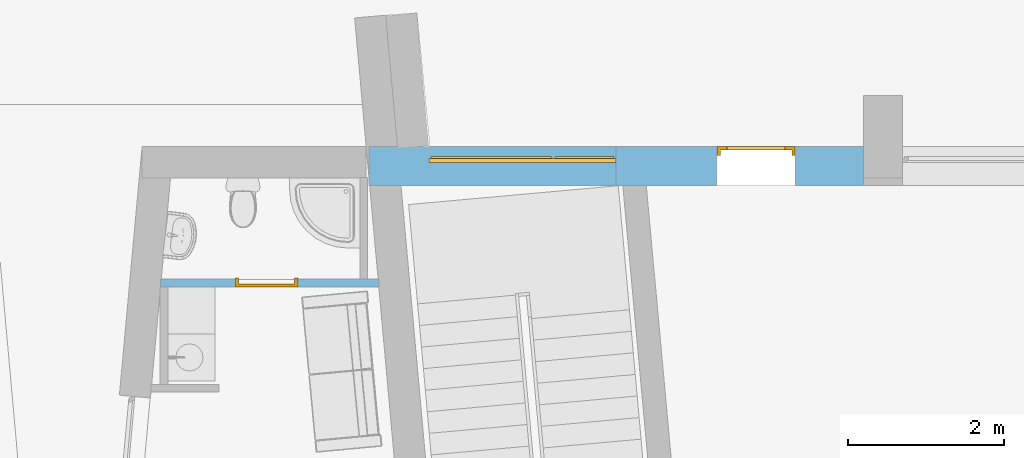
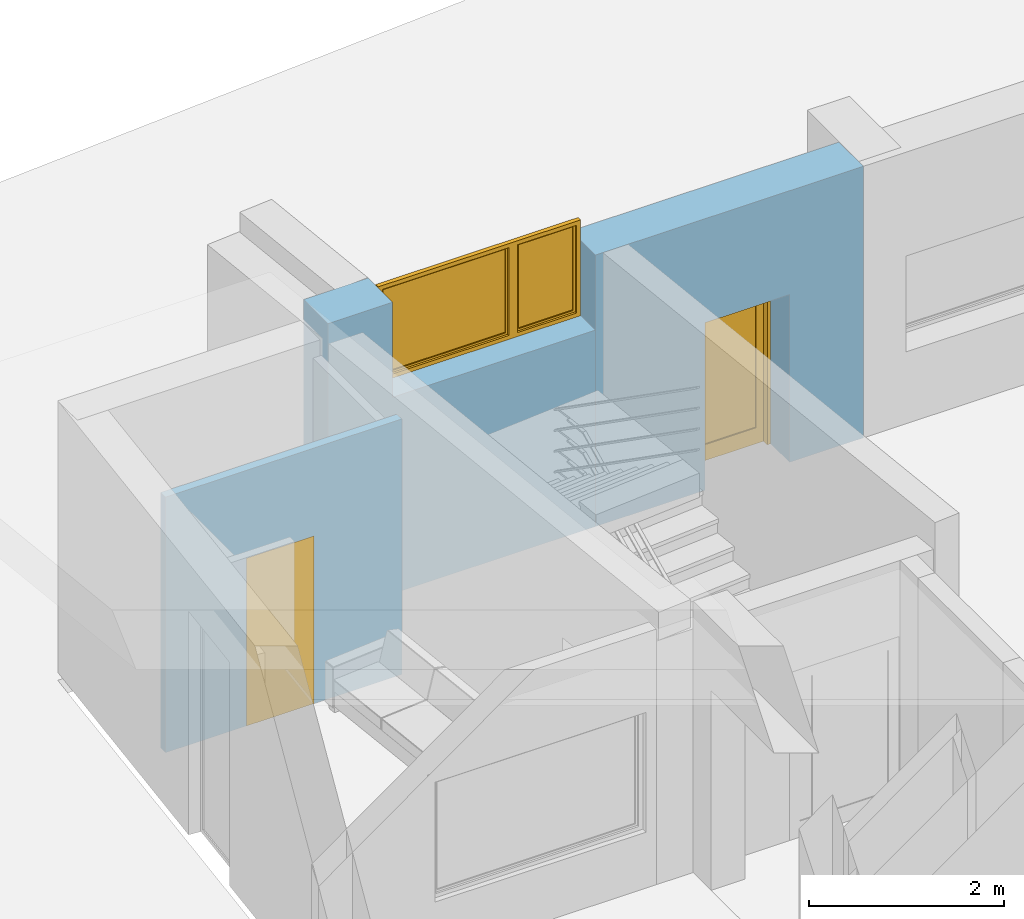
# One storey, part 16 of 36: 2 doors, 1 window, 3 openings, plus 3 elements that do not belong to this part.
"""IFC2X3 building model written with IfcOpenShell, lengths in millimetres."""

from ifc_helpers import new_model, entity, si_unit, converted_unit, money_unit, direction, frame, origin_with_axes, place, context, subcontext, project, spatial, polyline, outline, extrude, open_shell, faceted_brep, surface_model, material, material_list, layer, layer_set, layer_usage, type_object, element, fill, save


model = new_model("IFC2X3")

# Units and contexts
model_context = context("Model", 3, precision=1e-05, world=origin_with_axes(), true_north=direction((0.0, 1.0)))
body_context = subcontext(model_context, "Body", "Model", "MODEL_VIEW")
ifc_project = project(units=[si_unit("LENGTHUNIT", "METRE", prefix="MILLI"), si_unit("AREAUNIT", "SQUARE_METRE"), si_unit("VOLUMEUNIT", "CUBIC_METRE"), converted_unit("PLANEANGLEUNIT", "DEGREE", entity("IfcPlaneAngleMeasure", 0.0174532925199), si_unit("PLANEANGLEUNIT", "RADIAN"), dimensions=[0, 0, 0, 0, 0, 0, 0]), si_unit("SOLIDANGLEUNIT", "STERADIAN"), money_unit("USD"), converted_unit("TIMEUNIT", "Year", entity("IfcTimeMeasure", 31556926.0), si_unit("TIMEUNIT", "SECOND"), dimensions=[0, 0, 0, 0, 0, 0, 0]), si_unit("MASSUNIT", "GRAM"), si_unit("THERMODYNAMICTEMPERATUREUNIT", "DEGREE_CELSIUS"), si_unit("LUMINOUSINTENSITYUNIT", "LUMEN")], contexts=[model_context])

# Site, building, storey
site_placement = place(None, origin_with_axes())
site = spatial("IfcSite", under=ifc_project, at=site_placement, Name="Site", CompositionType="ELEMENT")
building_placement = place(site_placement, origin_with_axes())
building = spatial("IfcBuilding", under=site, at=building_placement, Name="Building", CompositionType="ELEMENT")
storey_placement = place(building_placement, frame((0.0, 0.0, -3400.0), z_axis=(0.0, 0.0, 1.0), x_axis=(1.0, 0.0, 0.0)))
storey = spatial("IfcBuildingStorey", under=building, at=storey_placement, Name="1KORRUS", CompositionType="ELEMENT", Elevation=-3400.0)

# Wall, opening, door
ifc_material_1 = material(Name="Olemasolevad seinad tellis, uus viimistlus")
ifc_layer_1 = layer(ifc_material_1, 500.0, ventilated="UNKNOWN")
ifc_layer_set_1 = layer_set([ifc_layer_1], Name="Olemasolevad seinad tellis, uus viimistlus 500")
ifc_layer_usage_1 = layer_usage(ifc_layer_set_1, "AXIS2", "POSITIVE", -100.0)
wall_type_1 = type_object("IfcWallType", Name="Olemasolevad seinad tellis, uus viimistlus 500", PredefinedType="NOTDEFINED")
wall_1_placement = place(storey_placement, frame((-51569.3388124, -5039.6041088, 0.0), z_axis=(0.0, 0.0, 1.0), x_axis=(1.0, 0.0, 0.0)))
wall_1 = element("IfcWallStandardCase", 1, at=wall_1_placement, inside=storey, type_object=wall_type_1, material=ifc_layer_usage_1, Name="VS1", ObjectType="VS1", context=body_context, shape_type="SweptSolid", body=[
    extrude(outline(polyline([(0.0, -100.0), (3175.51140757, -100.0), (3175.51140757, 400.0), (0.0, 400.0), (0.0, -100.0)])), origin_with_axes(), (0.0, 0.0, 1.0), 3400.0),
])
opening_1_placement = place(wall_1_placement, frame((1799.04210911, 0.0, 0.0), z_axis=(0.0, 0.0, 1.0), x_axis=(1.0, 0.0, 0.0)))
opening_1 = element("IfcOpeningElement", 2, at=opening_1_placement, cuts=wall_1, Name="VU1", context=body_context, shape_type="SweptSolid", body=[
    extrude(outline(polyline([(-500.0, -2100.0), (500.0, -2100.0), (500.0, 0.0), (-500.0, 0.0), (-500.0, -2100.0)])), frame((0.0, -500.0, 0.0), z_axis=(0.0, 1.0, 0.0), x_axis=(1.0, 0.0, 0.0)), (0.0, 0.0, 1.0), 1500.0),
])
ifc_material_2 = material(Name="Background")
ifc_material_list = material_list([ifc_material_2])
door_style_1 = type_object("IfcDoorStyle", Name="Door 19", ConstructionType="NOTDEFINED", OperationType="SINGLE_SWING_RIGHT", ParameterTakesPrecedence=False, Sizeable=False)
door_1_placement = place(opening_1_placement, frame((-500.0, 0.0, 0.0), z_axis=(0.0, 0.0, 1.0), x_axis=(1.0, 0.0, 0.0)))
door_1 = element("IfcDoor", 3, at=door_1_placement, inside=storey, type_object=door_style_1, material=ifc_material_list, Name="VU1", ObjectType="VÄLISUKS", OverallHeight=2100.0, OverallWidth=1000.0, context=body_context, shape_type="SurfaceModel", body=[
    faceted_brep([(40.0, 360.0, 0.0), (40.0, 360.0, 2060.0), (40.0, 285.0, 2060.0), (40.0, 285.0, 0.0), (28.0, 360.0, 2060.0), (28.0, 360.0, 0.0), (28.0, 400.0, 2060.0), (0.0, 400.0, 2060.0), (0.0, 285.0, 2060.0), (0.0, 285.0, 0.0), (0.0, 400.0, 0.0), (28.0, 400.0, 0.0)], [[[0, 1, 2, 3]], [[4, 1, 0, 5]], [[4, 6, 7, 8, 2, 1]], [[2, 8, 9, 3]], [[5, 0, 3, 9, 10, 11]], [[6, 4, 5, 11]], [[6, 11, 10, 7]], [[9, 8, 7, 10]]]),
    faceted_brep([(972.0, 360.0, 2060.0), (960.0, 360.0, 2060.0), (960.0, 285.0, 2060.0), (1000.0, 285.0, 2060.0), (1000.0, 400.0, 2060.0), (972.0, 400.0, 2060.0), (972.0, 360.0, 0.0), (960.0, 360.0, 0.0), (960.0, 285.0, 0.0), (1000.0, 285.0, 0.0), (1000.0, 400.0, 0.0), (972.0, 400.0, 0.0)], [[[0, 1, 2, 3, 4, 5]], [[1, 0, 6, 7]], [[1, 7, 8, 2]], [[2, 8, 9, 3]], [[3, 9, 10, 4]], [[11, 5, 4, 10]], [[0, 5, 11, 6]], [[6, 11, 10, 9, 8, 7]]]),
    faceted_brep([(28.0, 400.0, 2072.0), (28.0, 400.0, 2060.0), (0.0, 400.0, 2060.0), (0.0, 400.0, 2100.0), (1000.0, 400.0, 2100.0), (1000.0, 400.0, 2060.0), (972.0, 400.0, 2060.0), (972.0, 400.0, 2072.0), (28.0, 360.0, 2072.0), (28.0, 360.0, 2060.0), (40.0, 360.0, 2060.0), (40.0, 285.0, 2060.0), (0.0, 285.0, 2060.0), (0.0, 285.0, 2100.0), (1000.0, 285.0, 2100.0), (1000.0, 285.0, 2060.0), (972.0, 360.0, 2060.0), (960.0, 285.0, 2060.0), (960.0, 360.0, 2060.0), (972.0, 360.0, 2072.0)], [[[0, 1, 2, 3, 4, 5, 6, 7]], [[1, 0, 8, 9]], [[9, 10, 11, 12, 2, 1]], [[12, 13, 3, 2]], [[13, 14, 4, 3]], [[14, 15, 5, 4]], [[16, 6, 5, 15, 17, 18]], [[7, 6, 16, 19]], [[0, 7, 19, 8]], [[16, 18, 10, 9, 8, 19]], [[10, 18, 17, 11]], [[15, 14, 13, 12, 11, 17]]]),
    faceted_brep([(972.0, 400.0, 200.0), (972.0, 360.0, 200.0), (872.0, 360.0, 200.0), (872.0, 400.0, 200.0), (972.0, 400.0, 1972.0), (972.0, 360.0, 1972.0), (872.0, 360.0, 1972.0), (872.0, 400.0, 1972.0)], [[[0, 1, 2, 3]], [[4, 5, 1, 0]], [[1, 5, 6, 2]], [[3, 2, 6, 7]], [[0, 3, 7, 4]], [[7, 6, 5, 4]]]),
    faceted_brep([(28.0, 400.0, 200.0), (28.0, 360.0, 200.0), (28.0, 360.0, 1972.0), (28.0, 400.0, 1972.0), (128.0, 400.0, 200.0), (128.0, 360.0, 200.0), (128.0, 360.0, 1972.0), (128.0, 400.0, 1972.0)], [[[0, 1, 2, 3]], [[4, 5, 1, 0]], [[1, 5, 6, 2]], [[3, 2, 6, 7]], [[0, 3, 7, 4]], [[7, 6, 5, 4]]]),
    faceted_brep([(972.0, 400.0, 0.0), (972.0, 360.0, 0.0), (28.0, 360.0, 0.0), (28.0, 400.0, 0.0), (972.0, 400.0, 200.0), (972.0, 360.0, 200.0), (872.0, 360.0, 200.0), (128.0, 360.0, 200.0), (28.0, 360.0, 200.0), (28.0, 400.0, 200.0), (128.0, 400.0, 200.0), (872.0, 400.0, 200.0)], [[[0, 1, 2, 3]], [[4, 5, 1, 0]], [[1, 5, 6, 7, 8, 2]], [[3, 2, 8, 9]], [[0, 3, 9, 10, 11, 4]], [[11, 6, 5, 4]], [[10, 7, 6, 11]], [[9, 8, 7, 10]]]),
    faceted_brep([(972.0, 400.0, 2072.0), (972.0, 360.0, 2072.0), (972.0, 360.0, 1972.0), (972.0, 400.0, 1972.0), (28.0, 400.0, 2072.0), (28.0, 360.0, 2072.0), (28.0, 360.0, 1972.0), (128.0, 360.0, 1972.0), (872.0, 360.0, 1972.0), (872.0, 400.0, 1972.0), (128.0, 400.0, 1972.0), (28.0, 400.0, 1972.0)], [[[0, 1, 2, 3]], [[4, 5, 1, 0]], [[1, 5, 6, 7, 8, 2]], [[3, 2, 8, 9]], [[0, 3, 9, 10, 11, 4]], [[11, 6, 5, 4]], [[10, 7, 6, 11]], [[9, 8, 7, 10]]]),
    surface_model("IfcShellBasedSurfaceModel", [(872.0, 386.0, 200.0), (128.0, 386.0, 200.0), (128.0, 386.0, 1972.0), (872.0, 386.0, 1972.0)], [open_shell([[[0, 1, 2, 3]]])]),
    surface_model("IfcShellBasedSurfaceModel", [(872.0, 374.0, 200.0), (872.0, 374.0, 1972.0), (128.0, 374.0, 1972.0), (128.0, 374.0, 200.0)], [open_shell([[[0, 1, 2, 3]]])]),
])
fill(opening_1, door_1)

# Wall, opening, window
ifc_layer_usage_2 = layer_usage(ifc_layer_set_1, "AXIS2", "POSITIVE", -100.0)
wall_2_placement = place(storey_placement, frame((-54736.5854321, -5039.6041088, 0.0), z_axis=(0.0, 0.0, 1.0), x_axis=(1.0, 0.0, 0.0)))
wall_2 = element("IfcWallStandardCase", 4, at=wall_2_placement, inside=storey, type_object=wall_type_1, material=ifc_layer_usage_2, Name="VS1", ObjectType="VS1", context=body_context, shape_type="SweptSolid", body=[
    extrude(outline(polyline([(0.0, -100.0), (3167.24661967, -100.0), (3167.24661967, 400.0), (0.0, 400.0), (0.0, -100.0)])), origin_with_axes(), (0.0, 0.0, 1.0), 3650.0),
])
opening_2_placement = place(wall_2_placement, frame((1967.24661967, 0.0, 2460.0), z_axis=(0.0, 0.0, 1.0), x_axis=(1.0, 0.0, 0.0)))
opening_2 = element("IfcOpeningElement", 5, at=opening_2_placement, cuts=wall_2, Name="A2", context=body_context, shape_type="SweptSolid", body=[
    extrude(outline(polyline([(-1200.0, 1200.0), (-1200.0, 0.0), (1200.0, 0.0), (1200.0, 1200.0), (-1200.0, 1200.0)])), frame((0.0, 250.0, 0.0), z_axis=(0.0, -1.0, 0.0), x_axis=(1.0, 0.0, 0.0)), (0.0, 0.0, 1.0), 850.0),
    extrude(outline(polyline([(-1200.0, 0.0), (-1200.0, -1200.0), (1200.0, -1200.0), (1200.0, 0.0), (-1200.0, 0.0)])), frame((0.0, 250.0, 0.0), z_axis=(0.0, 1.0, 0.0), x_axis=(1.0, 0.0, 0.0)), (0.0, 0.0, 1.0), 650.0),
])
window_style = type_object("IfcWindowStyle", Name="Double Window 19", ConstructionType="NOTDEFINED", OperationType="DOUBLE_PANEL_VERTICAL", ParameterTakesPrecedence=False, Sizeable=False)
window_placement = place(opening_2_placement, frame((-1200.0, 0.0, 0.0), z_axis=(0.0, 0.0, 1.0), x_axis=(1.0, 0.0, 0.0)))
window = element("IfcWindow", 6, at=window_placement, inside=storey, type_object=window_style, material=ifc_material_list, Name="A2", ObjectType="Olemasolevad aknad jäävad", OverallHeight=1200.0, OverallWidth=2400.0, context=body_context, shape_type="SurfaceModel", body=[
    faceted_brep([(25.0, 250.0, 1150.0), (0.0, 250.0, 1150.0), (0.0, 200.0, 1150.0), (50.0, 200.0, 1150.0), (50.0, 225.0, 1150.0), (25.0, 225.0, 1150.0), (25.0, 250.0, 50.0), (0.0, 250.0, 50.0), (0.0, 200.0, 50.0), (50.0, 200.0, 50.0), (50.0, 225.0, 50.0), (25.0, 225.0, 50.0)], [[[0, 1, 2, 3, 4, 5]], [[6, 7, 1, 0]], [[1, 7, 8, 2]], [[2, 8, 9, 3]], [[4, 3, 9, 10]], [[10, 11, 5, 4]], [[5, 11, 6, 0]], [[11, 10, 9, 8, 7, 6]]]),
    faceted_brep([(2350.0, 225.0, 1150.0), (2350.0, 200.0, 1150.0), (2400.0, 200.0, 1150.0), (2400.0, 250.0, 1150.0), (2375.0, 250.0, 1150.0), (2375.0, 225.0, 1150.0), (2350.0, 225.0, 50.0), (2350.0, 200.0, 50.0), (2400.0, 200.0, 50.0), (2400.0, 250.0, 50.0), (2375.0, 250.0, 50.0), (2375.0, 225.0, 50.0)], [[[0, 1, 2, 3, 4, 5]], [[6, 7, 1, 0]], [[8, 2, 1, 7]], [[9, 3, 2, 8]], [[4, 3, 9, 10]], [[10, 11, 5, 4]], [[5, 11, 6, 0]], [[11, 10, 9, 8, 7, 6]]]),
    faceted_brep([(1550.0, 225.0, 1150.0), (1550.0, 200.0, 1150.0), (1650.0, 200.0, 1150.0), (1650.0, 225.0, 1150.0), (1625.0, 225.0, 1150.0), (1625.0, 250.0, 1150.0), (1575.0, 250.0, 1150.0), (1575.0, 225.0, 1150.0), (1550.0, 225.0, 50.0), (1550.0, 200.0, 50.0), (1650.0, 200.0, 50.0), (1650.0, 225.0, 50.0), (1625.0, 225.0, 50.0), (1625.0, 250.0, 50.0), (1575.0, 250.0, 50.0), (1575.0, 225.0, 50.0)], [[[0, 1, 2, 3, 4, 5, 6, 7]], [[8, 9, 1, 0]], [[10, 2, 1, 9]], [[3, 2, 10, 11]], [[11, 12, 4, 3]], [[4, 12, 13, 5]], [[6, 5, 13, 14]], [[14, 15, 7, 6]], [[7, 15, 8, 0]], [[15, 14, 13, 12, 11, 10, 9, 8]]]),
    faceted_brep([(1550.0, 225.0, 50.0), (1550.0, 200.0, 50.0), (1650.0, 200.0, 50.0), (1650.0, 225.0, 50.0), (1625.0, 225.0, 50.0), (1625.0, 250.0, 50.0), (1575.0, 250.0, 50.0), (1575.0, 225.0, 50.0), (50.0, 225.0, 50.0), (50.0, 200.0, 50.0), (0.0, 200.0, 50.0), (0.0, 200.0, 0.0), (2400.0, 200.0, 0.0), (2400.0, 200.0, 50.0), (2350.0, 200.0, 50.0), (2350.0, 225.0, 50.0), (2375.0, 225.0, 50.0), (2375.0, 225.0, 25.0), (1625.0, 225.0, 25.0), (1625.0, 250.0, 25.0), (25.0, 250.0, 25.0), (1575.0, 250.0, 25.0), (2375.0, 250.0, 25.0), (2375.0, 250.0, 50.0), (2400.0, 250.0, 50.0), (2400.0, 250.0, 0.0), (0.0, 250.0, 0.0), (0.0, 250.0, 50.0), (25.0, 250.0, 50.0), (1575.0, 225.0, 25.0), (25.0, 225.0, 25.0), (25.0, 225.0, 50.0)], [[[0, 1, 2, 3, 4, 5, 6, 7]], [[8, 9, 1, 0]], [[10, 11, 12, 13, 14, 2, 1, 9]], [[3, 2, 14, 15]], [[16, 17, 18, 4, 3, 15]], [[4, 18, 19, 5]], [[20, 21, 6, 5, 19, 22, 23, 24, 25, 26, 27, 28]], [[21, 29, 7, 6]], [[7, 29, 30, 31, 8, 0]], [[31, 28, 27, 10, 9, 8]], [[27, 26, 11, 10]], [[26, 25, 12, 11]], [[25, 24, 13, 12]], [[15, 14, 13, 24, 23, 16]], [[22, 17, 16, 23]], [[19, 18, 17, 22]], [[20, 30, 29, 21]], [[31, 30, 20, 28]]]),
    faceted_brep([(25.0, 250.0, 1150.0), (0.0, 250.0, 1150.0), (0.0, 250.0, 1200.0), (2400.0, 250.0, 1200.0), (2400.0, 250.0, 1150.0), (2375.0, 250.0, 1150.0), (2375.0, 250.0, 1175.0), (1625.0, 250.0, 1175.0), (1625.0, 250.0, 1150.0), (1575.0, 250.0, 1150.0), (1575.0, 250.0, 1175.0), (25.0, 250.0, 1175.0), (25.0, 225.0, 1150.0), (50.0, 225.0, 1150.0), (50.0, 200.0, 1150.0), (0.0, 200.0, 1150.0), (0.0, 200.0, 1200.0), (2400.0, 200.0, 1200.0), (2400.0, 200.0, 1150.0), (2375.0, 225.0, 1150.0), (2350.0, 200.0, 1150.0), (2350.0, 225.0, 1150.0), (2375.0, 225.0, 1175.0), (1625.0, 225.0, 1175.0), (1625.0, 225.0, 1150.0), (1575.0, 225.0, 1150.0), (1650.0, 225.0, 1150.0), (1650.0, 200.0, 1150.0), (1550.0, 200.0, 1150.0), (1550.0, 225.0, 1150.0), (1575.0, 225.0, 1175.0), (25.0, 225.0, 1175.0)], [[[0, 1, 2, 3, 4, 5, 6, 7, 8, 9, 10, 11]], [[12, 13, 14, 15, 1, 0]], [[2, 1, 15, 16]], [[3, 2, 16, 17]], [[4, 3, 17, 18]], [[19, 5, 4, 18, 20, 21]], [[5, 19, 22, 6]], [[6, 22, 23, 7]], [[7, 23, 24, 8]], [[25, 9, 8, 24, 26, 27, 28, 29]], [[9, 25, 30, 10]], [[10, 30, 31, 11]], [[11, 31, 12, 0]], [[29, 13, 12, 31, 30, 25]], [[29, 28, 14, 13]], [[27, 20, 18, 17, 16, 15, 14, 28]], [[21, 20, 27, 26]], [[21, 26, 24, 23, 22, 19]]]),
    faceted_brep([(75.0, 225.0, 1125.0), (75.0, 275.0, 1125.0), (25.0, 275.0, 1125.0), (25.0, 225.0, 1125.0), (75.0, 225.0, 75.0), (75.0, 275.0, 75.0), (25.0, 275.0, 75.0), (25.0, 225.0, 75.0)], [[[0, 1, 2, 3]], [[4, 5, 1, 0]], [[1, 5, 6, 2]], [[3, 2, 6, 7]], [[0, 3, 7, 4]], [[7, 6, 5, 4]]]),
    faceted_brep([(1525.0, 225.0, 75.0), (1525.0, 275.0, 75.0), (1575.0, 275.0, 75.0), (1575.0, 225.0, 75.0), (1525.0, 225.0, 1125.0), (1525.0, 275.0, 1125.0), (1575.0, 275.0, 1125.0), (1575.0, 225.0, 1125.0)], [[[0, 1, 2, 3]], [[4, 5, 1, 0]], [[1, 5, 6, 2]], [[3, 2, 6, 7]], [[0, 3, 7, 4]], [[7, 6, 5, 4]]]),
    faceted_brep([(1575.0, 225.0, 25.0), (1575.0, 275.0, 25.0), (1575.0, 275.0, 75.0), (1575.0, 225.0, 75.0), (25.0, 225.0, 25.0), (25.0, 275.0, 25.0), (25.0, 275.0, 75.0), (75.0, 275.0, 75.0), (1525.0, 275.0, 75.0), (1525.0, 225.0, 75.0), (75.0, 225.0, 75.0), (25.0, 225.0, 75.0)], [[[0, 1, 2, 3]], [[4, 5, 1, 0]], [[1, 5, 6, 7, 8, 2]], [[3, 2, 8, 9]], [[0, 3, 9, 10, 11, 4]], [[11, 6, 5, 4]], [[10, 7, 6, 11]], [[9, 8, 7, 10]]]),
    faceted_brep([(25.0, 225.0, 1175.0), (25.0, 275.0, 1175.0), (25.0, 275.0, 1125.0), (25.0, 225.0, 1125.0), (1575.0, 225.0, 1175.0), (1575.0, 275.0, 1175.0), (1575.0, 275.0, 1125.0), (1525.0, 275.0, 1125.0), (75.0, 275.0, 1125.0), (75.0, 225.0, 1125.0), (1525.0, 225.0, 1125.0), (1575.0, 225.0, 1125.0)], [[[0, 1, 2, 3]], [[4, 5, 1, 0]], [[1, 5, 6, 7, 8, 2]], [[3, 2, 8, 9]], [[0, 3, 9, 10, 11, 4]], [[11, 6, 5, 4]], [[10, 7, 6, 11]], [[9, 8, 7, 10]]]),
    surface_model("IfcShellBasedSurfaceModel", [(75.0, 240.0, 75.0), (1525.0, 240.0, 75.0), (1525.0, 240.0, 1125.0), (75.0, 240.0, 1125.0)], [open_shell([[[0, 1, 2, 3]]])]),
    surface_model("IfcShellBasedSurfaceModel", [(75.0, 260.0, 75.0), (75.0, 260.0, 1125.0), (1525.0, 260.0, 1125.0), (1525.0, 260.0, 75.0)], [open_shell([[[0, 1, 2, 3]]])]),
    faceted_brep([(1675.0, 225.0, 1125.0), (1675.0, 275.0, 1125.0), (1625.0, 275.0, 1125.0), (1625.0, 225.0, 1125.0), (1675.0, 225.0, 75.0), (1675.0, 275.0, 75.0), (1625.0, 275.0, 75.0), (1625.0, 225.0, 75.0)], [[[0, 1, 2, 3]], [[4, 5, 1, 0]], [[1, 5, 6, 2]], [[3, 2, 6, 7]], [[0, 3, 7, 4]], [[7, 6, 5, 4]]]),
    faceted_brep([(2325.0, 225.0, 75.0), (2325.0, 275.0, 75.0), (2375.0, 275.0, 75.0), (2375.0, 225.0, 75.0), (2325.0, 225.0, 1125.0), (2325.0, 275.0, 1125.0), (2375.0, 275.0, 1125.0), (2375.0, 225.0, 1125.0)], [[[0, 1, 2, 3]], [[4, 5, 1, 0]], [[1, 5, 6, 2]], [[3, 2, 6, 7]], [[0, 3, 7, 4]], [[7, 6, 5, 4]]]),
    faceted_brep([(2375.0, 225.0, 25.0), (2375.0, 275.0, 25.0), (2375.0, 275.0, 75.0), (2375.0, 225.0, 75.0), (1625.0, 225.0, 25.0), (1625.0, 275.0, 25.0), (1625.0, 275.0, 75.0), (1675.0, 275.0, 75.0), (2325.0, 275.0, 75.0), (2325.0, 225.0, 75.0), (1675.0, 225.0, 75.0), (1625.0, 225.0, 75.0)], [[[0, 1, 2, 3]], [[4, 5, 1, 0]], [[1, 5, 6, 7, 8, 2]], [[3, 2, 8, 9]], [[0, 3, 9, 10, 11, 4]], [[11, 6, 5, 4]], [[10, 7, 6, 11]], [[9, 8, 7, 10]]]),
    faceted_brep([(1625.0, 225.0, 1175.0), (1625.0, 275.0, 1175.0), (1625.0, 275.0, 1125.0), (1625.0, 225.0, 1125.0), (2375.0, 225.0, 1175.0), (2375.0, 275.0, 1175.0), (2375.0, 275.0, 1125.0), (2325.0, 275.0, 1125.0), (1675.0, 275.0, 1125.0), (1675.0, 225.0, 1125.0), (2325.0, 225.0, 1125.0), (2375.0, 225.0, 1125.0)], [[[0, 1, 2, 3]], [[4, 5, 1, 0]], [[1, 5, 6, 7, 8, 2]], [[3, 2, 8, 9]], [[0, 3, 9, 10, 11, 4]], [[11, 6, 5, 4]], [[10, 7, 6, 11]], [[9, 8, 7, 10]]]),
    surface_model("IfcShellBasedSurfaceModel", [(1675.0, 240.0, 75.0), (2325.0, 240.0, 75.0), (2325.0, 240.0, 1125.0), (1675.0, 240.0, 1125.0)], [open_shell([[[0, 1, 2, 3]]])]),
    surface_model("IfcShellBasedSurfaceModel", [(1675.0, 260.0, 75.0), (1675.0, 260.0, 1125.0), (2325.0, 260.0, 1125.0), (2325.0, 260.0, 75.0)], [open_shell([[[0, 1, 2, 3]]])]),
])
fill(opening_2, window)

# Wall, opening, door
ifc_material_3 = material(Name="krohv")
ifc_layer_2 = layer(ifc_material_3, 2.0, ventilated="UNKNOWN")
ifc_layer_3 = layer(ifc_material_3, 10.0, ventilated="UNKNOWN")
ifc_material_4 = material(Name="Kergplokk")
ifc_layer_4 = layer(ifc_material_4, 76.0, ventilated="UNKNOWN")
ifc_layer_5 = layer(ifc_material_3, 10.0, ventilated="UNKNOWN")
ifc_layer_6 = layer(ifc_material_3, 2.0, ventilated="UNKNOWN")
ifc_layer_set_2 = layer_set([ifc_layer_2, ifc_layer_3, ifc_layer_4, ifc_layer_5, ifc_layer_6], Name="Kergplokk Bauroc 100")
ifc_layer_usage_3 = layer_usage(ifc_layer_set_2, "AXIS2", "POSITIVE", 0.0)
wall_type_2 = type_object("IfcWallType", Name="Kergplokk Bauroc 100 100", PredefinedType="NOTDEFINED")
wall_3_placement = place(storey_placement, frame((-57410.3577718, -6437.6041088, 0.0), z_axis=(0.0, 0.0, 1.0), x_axis=(1.0, 0.0, 0.0)))
wall_3 = element("IfcWallStandardCase", 7, at=wall_3_placement, inside=storey, type_object=wall_type_2, material=ifc_layer_usage_3, Name="SS1", ObjectType="SS1", context=body_context, shape_type="SweptSolid", body=[
    extrude(outline(polyline([(0.0, 0.0), (2799.71624582, 0.0), (2799.71624582, 100.0), (0.0, 100.0), (0.0, 0.0)])), origin_with_axes(), (0.0, 0.0, 1.0), 3200.0),
])
opening_3_placement = place(wall_3_placement, frame((1359.9161516, 0.0, 0.0), z_axis=(0.0, 0.0, 1.0), x_axis=(1.0, 0.0, 0.0)))
opening_3 = element("IfcOpeningElement", 8, at=opening_3_placement, cuts=wall_3, Name="SU3-2", context=body_context, shape_type="SweptSolid", body=[
    extrude(outline(polyline([(-400.0, -2100.0), (400.0, -2100.0), (400.0, 0.0), (-400.0, 0.0), (-400.0, -2100.0)])), frame((0.0, 100.0, 0.0), z_axis=(0.0, -1.0, 0.0), x_axis=(-1.0, 0.0, 0.0)), (0.0, 0.0, 1.0), 300.0),
])
door_style_2 = type_object("IfcDoorStyle", Name="Door 19", ConstructionType="NOTDEFINED", OperationType="SINGLE_SWING_RIGHT", ParameterTakesPrecedence=False, Sizeable=False)
door_2_placement = place(opening_3_placement, frame((400.0, 0.0, 0.0), z_axis=(0.0, 0.0, 1.0), x_axis=(-1.0, 0.0, 0.0)))
door_2 = element("IfcDoor", 9, at=door_2_placement, inside=storey, type_object=door_style_2, material=ifc_material_list, Name="SU3-2", ObjectType="WC-uks", OverallHeight=2100.0, OverallWidth=800.0, context=body_context, shape_type="Brep", body=[
    faceted_brep([(40.0, -40.0, 0.0), (40.0, -40.0, 2060.0), (40.0, -115.0, 2060.0), (40.0, -115.0, 0.0), (28.0, -40.0, 2060.0), (28.0, -40.0, 0.0), (28.0, 0.0, 2060.0), (0.0, 0.0, 2060.0), (0.0, -115.0, 2060.0), (0.0, -115.0, 0.0), (0.0, 0.0, 0.0), (28.0, 0.0, 0.0)], [[[0, 1, 2, 3]], [[4, 1, 0, 5]], [[4, 6, 7, 8, 2, 1]], [[2, 8, 9, 3]], [[5, 0, 3, 9, 10, 11]], [[6, 4, 5, 11]], [[6, 11, 10, 7]], [[9, 8, 7, 10]]]),
    faceted_brep([(772.0, -40.0, 2060.0), (760.0, -40.0, 2060.0), (760.0, -115.0, 2060.0), (800.0, -115.0, 2060.0), (800.0, 0.0, 2060.0), (772.0, 0.0, 2060.0), (772.0, -40.0, 0.0), (760.0, -40.0, 0.0), (760.0, -115.0, 0.0), (800.0, -115.0, 0.0), (800.0, 0.0, 0.0), (772.0, 0.0, 0.0)], [[[0, 1, 2, 3, 4, 5]], [[1, 0, 6, 7]], [[1, 7, 8, 2]], [[2, 8, 9, 3]], [[3, 9, 10, 4]], [[11, 5, 4, 10]], [[0, 5, 11, 6]], [[6, 11, 10, 9, 8, 7]]]),
    faceted_brep([(28.0, 0.0, 2072.0), (28.0, 0.0, 2060.0), (0.0, 0.0, 2060.0), (0.0, 0.0, 2100.0), (800.0, 0.0, 2100.0), (800.0, 0.0, 2060.0), (772.0, 0.0, 2060.0), (772.0, 0.0, 2072.0), (28.0, -40.0, 2072.0), (28.0, -40.0, 2060.0), (40.0, -40.0, 2060.0), (40.0, -115.0, 2060.0), (0.0, -115.0, 2060.0), (0.0, -115.0, 2100.0), (800.0, -115.0, 2100.0), (800.0, -115.0, 2060.0), (772.0, -40.0, 2060.0), (760.0, -115.0, 2060.0), (760.0, -40.0, 2060.0), (772.0, -40.0, 2072.0)], [[[0, 1, 2, 3, 4, 5, 6, 7]], [[1, 0, 8, 9]], [[9, 10, 11, 12, 2, 1]], [[12, 13, 3, 2]], [[13, 14, 4, 3]], [[14, 15, 5, 4]], [[16, 6, 5, 15, 17, 18]], [[7, 6, 16, 19]], [[0, 7, 19, 8]], [[16, 18, 10, 9, 8, 19]], [[10, 18, 17, 11]], [[15, 14, 13, 12, 11, 17]]]),
    faceted_brep([(772.0, 0.0, 0.0), (772.0, -40.0, 0.0), (28.0, -40.0, 0.0), (28.0, 0.0, 0.0), (772.0, 0.0, 2072.0), (772.0, -40.0, 2072.0), (28.0, -40.0, 2072.0), (28.0, 0.0, 2072.0)], [[[0, 1, 2, 3]], [[4, 5, 1, 0]], [[1, 5, 6, 2]], [[3, 2, 6, 7]], [[0, 3, 7, 4]], [[7, 6, 5, 4]]]),
])
fill(opening_3, door_2)

save(model, "model.ifc")
